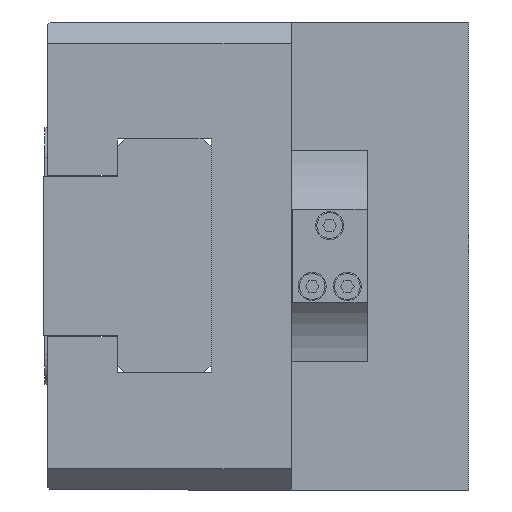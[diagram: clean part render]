
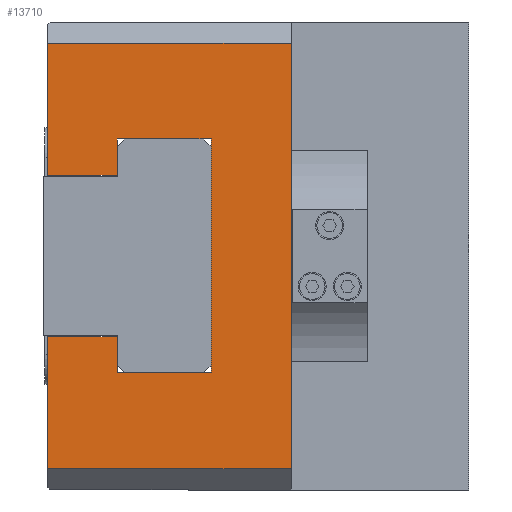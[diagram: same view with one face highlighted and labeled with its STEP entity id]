
A CAD part, left-side view. The second image highlights one B-rep face of the part: STEP entity #13710.
In plain terms, the highlighted planar face has unit normal (-1, 0, 0).
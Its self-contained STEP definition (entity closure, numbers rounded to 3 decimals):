
#181 = VERTEX_POINT ( 'NONE', #8477 ) ;
#303 = DIRECTION ( 'NONE',  ( 0., 0., 1. ) ) ;
#357 = VECTOR ( 'NONE', #10603, 1000. ) ;
#847 = AXIS2_PLACEMENT_3D ( 'NONE', #17743, #10883, #2719 ) ;
#902 = EDGE_CURVE ( 'NONE', #8395, #10480, #9050, .T. ) ;
#1040 = VERTEX_POINT ( 'NONE', #4216 ) ;
#1224 = CARTESIAN_POINT ( 'NONE',  ( -100., 90., 45.5 ) ) ;
#1284 = CARTESIAN_POINT ( 'NONE',  ( -100., 75.1, -25. ) ) ;
#2061 = VECTOR ( 'NONE', #2378, 1000. ) ;
#2267 = DIRECTION ( 'NONE',  ( 0., 1., 0. ) ) ;
#2378 = DIRECTION ( 'NONE',  ( 0., -1., 0. ) ) ;
#2448 = DIRECTION ( 'NONE',  ( 0., 0., -1. ) ) ;
#2522 = LINE ( 'NONE', #8430, #9346 ) ;
#2719 = DIRECTION ( 'NONE',  ( 0., 0., -1. ) ) ;
#2770 = EDGE_LOOP ( 'NONE', ( #9769, #16748, #10746, #8969, #14937, #15631, #4984, #7313, #5493, #7639, #12848, #6306, #10925, #4407 ) ) ;
#2976 = CARTESIAN_POINT ( 'NONE',  ( -100., 75.1, -17.55 ) ) ;
#3020 = EDGE_CURVE ( 'NONE', #3188, #10907, #16196, .T. ) ;
#3143 = VECTOR ( 'NONE', #14301, 1000. ) ;
#3188 = VERTEX_POINT ( 'NONE', #6090 ) ;
#3720 = CARTESIAN_POINT ( 'NONE',  ( -100., 90., -17.25 ) ) ;
#3879 = CARTESIAN_POINT ( 'NONE',  ( -100., 0., -17.25 ) ) ;
#3929 = CARTESIAN_POINT ( 'NONE',  ( -100., 75.1, 0. ) ) ;
#4216 = CARTESIAN_POINT ( 'NONE',  ( -100., 90., 17.25 ) ) ;
#4255 = EDGE_CURVE ( 'NONE', #10907, #10480, #4572, .T. ) ;
#4407 = ORIENTED_EDGE ( 'NONE', *, *, #3020, .F. ) ;
#4572 = LINE ( 'NONE', #3879, #11418 ) ;
#4666 = VECTOR ( 'NONE', #2267, 1000. ) ;
#4861 = EDGE_CURVE ( 'NONE', #12071, #1040, #6475, .T. ) ;
#4944 = FACE_OUTER_BOUND ( 'NONE', #2770, .T. ) ;
#4984 = ORIENTED_EDGE ( 'NONE', *, *, #11610, .F. ) ;
#5000 = VECTOR ( 'NONE', #15722, 1000. ) ;
#5016 = CARTESIAN_POINT ( 'NONE',  ( -100., 38., 45.5 ) ) ;
#5099 = CARTESIAN_POINT ( 'NONE',  ( -100., 90., 17.25 ) ) ;
#5264 = DIRECTION ( 'NONE',  ( 0., -1., 0. ) ) ;
#5493 = ORIENTED_EDGE ( 'NONE', *, *, #13061, .F. ) ;
#5501 = CARTESIAN_POINT ( 'NONE',  ( -100., 55.1, -25. ) ) ;
#5584 = VERTEX_POINT ( 'NONE', #10629 ) ;
#6090 = CARTESIAN_POINT ( 'NONE',  ( -100., 90., -45.5 ) ) ;
#6306 = ORIENTED_EDGE ( 'NONE', *, *, #902, .T. ) ;
#6475 = LINE ( 'NONE', #5099, #16991 ) ;
#6507 = CARTESIAN_POINT ( 'NONE',  ( -100., 38., 50. ) ) ;
#6745 = CARTESIAN_POINT ( 'NONE',  ( -100., 0., 25. ) ) ;
#7049 = DIRECTION ( 'NONE',  ( 0., -0.707, 0.707 ) ) ;
#7062 = VECTOR ( 'NONE', #14841, 1000. ) ;
#7074 = EDGE_CURVE ( 'NONE', #12016, #1040, #14535, .T. ) ;
#7123 = EDGE_CURVE ( 'NONE', #5584, #3188, #8716, .T. ) ;
#7129 = VERTEX_POINT ( 'NONE', #5016 ) ;
#7182 = LINE ( 'NONE', #10222, #3143 ) ;
#7227 = VECTOR ( 'NONE', #10346, 1000. ) ;
#7313 = ORIENTED_EDGE ( 'NONE', *, *, #10026, .F. ) ;
#7483 = LINE ( 'NONE', #3929, #7062 ) ;
#7525 = CARTESIAN_POINT ( 'NONE',  ( -100., 90., 45.5 ) ) ;
#7623 = VERTEX_POINT ( 'NONE', #14890 ) ;
#7639 = ORIENTED_EDGE ( 'NONE', *, *, #16930, .F. ) ;
#8075 = LINE ( 'NONE', #16080, #357 ) ;
#8113 = DIRECTION ( 'NONE',  ( 0., 1., 0. ) ) ;
#8395 = VERTEX_POINT ( 'NONE', #2976 ) ;
#8430 = CARTESIAN_POINT ( 'NONE',  ( -100., 75.1, 17.55 ) ) ;
#8477 = CARTESIAN_POINT ( 'NONE',  ( -100., 75.1, 17.55 ) ) ;
#8479 = LINE ( 'NONE', #6507, #15800 ) ;
#8716 = LINE ( 'NONE', #13149, #4666 ) ;
#8842 = EDGE_CURVE ( 'NONE', #7129, #12071, #13568, .T. ) ;
#8969 = ORIENTED_EDGE ( 'NONE', *, *, #4861, .T. ) ;
#9050 = LINE ( 'NONE', #16294, #5000 ) ;
#9346 = VECTOR ( 'NONE', #7049, 1000. ) ;
#9420 = CARTESIAN_POINT ( 'NONE',  ( -100., 75.4, -17.25 ) ) ;
#9425 = DIRECTION ( 'NONE',  ( 0., 1., 0. ) ) ;
#9769 = ORIENTED_EDGE ( 'NONE', *, *, #7123, .F. ) ;
#10026 = EDGE_CURVE ( 'NONE', #7623, #13885, #10917, .T. ) ;
#10222 = CARTESIAN_POINT ( 'NONE',  ( -100., 55.1, 0. ) ) ;
#10346 = DIRECTION ( 'NONE',  ( 0., 1., 0. ) ) ;
#10480 = VERTEX_POINT ( 'NONE', #9420 ) ;
#10506 = VECTOR ( 'NONE', #8113, 1000. ) ;
#10590 = DIRECTION ( 'NONE',  ( 0., 0., -1. ) ) ;
#10603 = DIRECTION ( 'NONE',  ( 0., 0., -1. ) ) ;
#10629 = CARTESIAN_POINT ( 'NONE',  ( -100., 38., -45.5 ) ) ;
#10746 = ORIENTED_EDGE ( 'NONE', *, *, #8842, .T. ) ;
#10883 = DIRECTION ( 'NONE',  ( 1., 0., 0. ) ) ;
#10907 = VERTEX_POINT ( 'NONE', #3720 ) ;
#10917 = LINE ( 'NONE', #6745, #10506 ) ;
#10925 = ORIENTED_EDGE ( 'NONE', *, *, #4255, .F. ) ;
#11418 = VECTOR ( 'NONE', #5264, 1000. ) ;
#11610 = EDGE_CURVE ( 'NONE', #13885, #181, #8075, .T. ) ;
#11929 = CARTESIAN_POINT ( 'NONE',  ( -100., 0., -25. ) ) ;
#12016 = VERTEX_POINT ( 'NONE', #12878 ) ;
#12071 = VERTEX_POINT ( 'NONE', #7525 ) ;
#12488 = EDGE_CURVE ( 'NONE', #12016, #181, #2522, .T. ) ;
#12848 = ORIENTED_EDGE ( 'NONE', *, *, #14636, .F. ) ;
#12878 = CARTESIAN_POINT ( 'NONE',  ( -100., 75.4, 17.25 ) ) ;
#12978 = LINE ( 'NONE', #11929, #2061 ) ;
#13061 = EDGE_CURVE ( 'NONE', #16630, #7623, #7182, .T. ) ;
#13149 = CARTESIAN_POINT ( 'NONE',  ( -100., 0., -45.5 ) ) ;
#13568 = LINE ( 'NONE', #1224, #16783 ) ;
#13710 = ADVANCED_FACE ( 'NONE', ( #4944 ), #16371, .F. ) ;
#13855 = VECTOR ( 'NONE', #303, 1000. ) ;
#13885 = VERTEX_POINT ( 'NONE', #13975 ) ;
#13975 = CARTESIAN_POINT ( 'NONE',  ( -100., 75.1, 25. ) ) ;
#14301 = DIRECTION ( 'NONE',  ( 0., 0., 1. ) ) ;
#14436 = CARTESIAN_POINT ( 'NONE',  ( -100., 0., 17.25 ) ) ;
#14535 = LINE ( 'NONE', #14436, #7227 ) ;
#14636 = EDGE_CURVE ( 'NONE', #8395, #17084, #7483, .T. ) ;
#14841 = DIRECTION ( 'NONE',  ( 0., 0., -1. ) ) ;
#14890 = CARTESIAN_POINT ( 'NONE',  ( -100., 55.1, 25. ) ) ;
#14937 = ORIENTED_EDGE ( 'NONE', *, *, #7074, .F. ) ;
#15631 = ORIENTED_EDGE ( 'NONE', *, *, #12488, .T. ) ;
#15722 = DIRECTION ( 'NONE',  ( 0., 0.707, 0.707 ) ) ;
#15800 = VECTOR ( 'NONE', #2448, 1000. ) ;
#16080 = CARTESIAN_POINT ( 'NONE',  ( -100., 75.1, 0. ) ) ;
#16196 = LINE ( 'NONE', #16790, #13855 ) ;
#16294 = CARTESIAN_POINT ( 'NONE',  ( -100., 75.4, -17.25 ) ) ;
#16371 = PLANE ( 'NONE',  #847 ) ;
#16567 = EDGE_CURVE ( 'NONE', #7129, #5584, #8479, .T. ) ;
#16630 = VERTEX_POINT ( 'NONE', #5501 ) ;
#16748 = ORIENTED_EDGE ( 'NONE', *, *, #16567, .F. ) ;
#16783 = VECTOR ( 'NONE', #9425, 1000. ) ;
#16790 = CARTESIAN_POINT ( 'NONE',  ( -100., 90., 0. ) ) ;
#16930 = EDGE_CURVE ( 'NONE', #17084, #16630, #12978, .T. ) ;
#16991 = VECTOR ( 'NONE', #10590, 1000. ) ;
#17084 = VERTEX_POINT ( 'NONE', #1284 ) ;
#17743 = CARTESIAN_POINT ( 'NONE',  ( -100., 0., 0. ) ) ;
